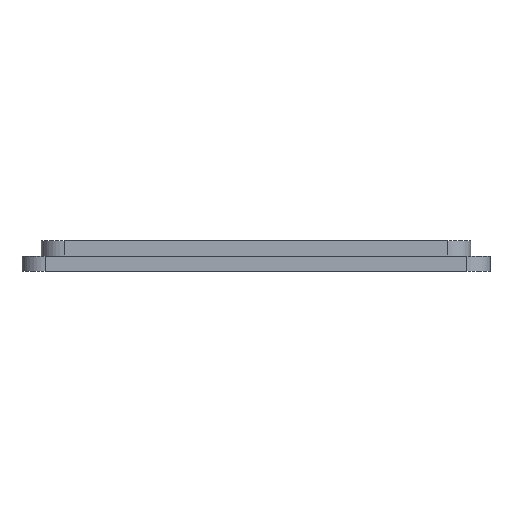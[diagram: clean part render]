
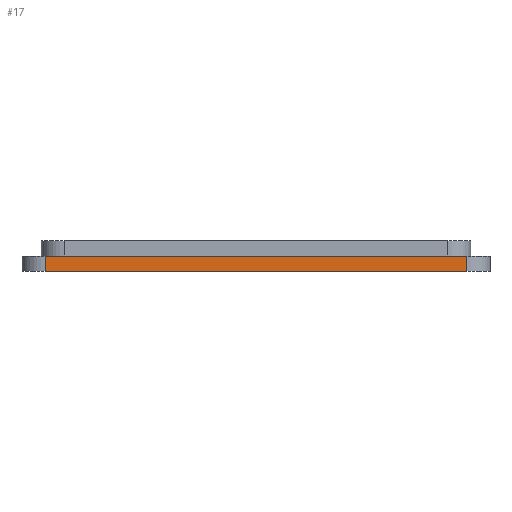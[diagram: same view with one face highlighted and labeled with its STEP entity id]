
A CAD part, left-side view. The second image highlights one B-rep face of the part: STEP entity #17.
In plain terms, the highlighted planar face has unit normal (-1, 0, 0).
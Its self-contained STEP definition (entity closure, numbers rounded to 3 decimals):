
#17 = ADVANCED_FACE('',(#18),#32,.T.);
#18 = FACE_BOUND('',#19,.T.);
#19 = EDGE_LOOP('',(#20,#55,#83,#111));
#20 = ORIENTED_EDGE('',*,*,#21,.T.);
#21 = EDGE_CURVE('',#22,#24,#26,.T.);
#22 = VERTEX_POINT('',#23);
#23 = CARTESIAN_POINT('',(-16.,-13.75,0.));
#24 = VERTEX_POINT('',#25);
#25 = CARTESIAN_POINT('',(-16.,-13.75,1.));
#26 = SURFACE_CURVE('',#27,(#31,#43),.PCURVE_S1.);
#27 = LINE('',#28,#29);
#28 = CARTESIAN_POINT('',(-16.,-13.75,0.));
#29 = VECTOR('',#30,1.);
#30 = DIRECTION('',(0.,0.,1.));
#31 = PCURVE('',#32,#37);
#32 = PLANE('',#33);
#33 = AXIS2_PLACEMENT_3D('',#34,#35,#36);
#34 = CARTESIAN_POINT('',(-16.,-13.75,0.));
#35 = DIRECTION('',(-1.,0.,0.));
#36 = DIRECTION('',(0.,1.,0.));
#37 = DEFINITIONAL_REPRESENTATION('',(#38),#42);
#38 = LINE('',#39,#40);
#39 = CARTESIAN_POINT('',(0.,0.));
#40 = VECTOR('',#41,1.);
#41 = DIRECTION('',(0.,-1.));
#42 = ( GEOMETRIC_REPRESENTATION_CONTEXT(2) 
PARAMETRIC_REPRESENTATION_CONTEXT() REPRESENTATION_CONTEXT('2D SPACE',''
  ) );
#43 = PCURVE('',#44,#49);
#44 = CYLINDRICAL_SURFACE('',#45,1.5);
#45 = AXIS2_PLACEMENT_3D('',#46,#47,#48);
#46 = CARTESIAN_POINT('',(-14.5,-13.75,0.));
#47 = DIRECTION('',(-0.,-0.,-1.));
#48 = DIRECTION('',(1.,0.,0.));
#49 = DEFINITIONAL_REPRESENTATION('',(#50),#54);
#50 = LINE('',#51,#52);
#51 = CARTESIAN_POINT('',(-3.142,0.));
#52 = VECTOR('',#53,1.);
#53 = DIRECTION('',(-0.,-1.));
#54 = ( GEOMETRIC_REPRESENTATION_CONTEXT(2) 
PARAMETRIC_REPRESENTATION_CONTEXT() REPRESENTATION_CONTEXT('2D SPACE',''
  ) );
#55 = ORIENTED_EDGE('',*,*,#56,.T.);
#56 = EDGE_CURVE('',#24,#57,#59,.T.);
#57 = VERTEX_POINT('',#58);
#58 = CARTESIAN_POINT('',(-16.,13.75,1.));
#59 = SURFACE_CURVE('',#60,(#64,#71),.PCURVE_S1.);
#60 = LINE('',#61,#62);
#61 = CARTESIAN_POINT('',(-16.,-13.75,1.));
#62 = VECTOR('',#63,1.);
#63 = DIRECTION('',(0.,1.,0.));
#64 = PCURVE('',#32,#65);
#65 = DEFINITIONAL_REPRESENTATION('',(#66),#70);
#66 = LINE('',#67,#68);
#67 = CARTESIAN_POINT('',(0.,-1.));
#68 = VECTOR('',#69,1.);
#69 = DIRECTION('',(1.,0.));
#70 = ( GEOMETRIC_REPRESENTATION_CONTEXT(2) 
PARAMETRIC_REPRESENTATION_CONTEXT() REPRESENTATION_CONTEXT('2D SPACE',''
  ) );
#71 = PCURVE('',#72,#77);
#72 = PLANE('',#73);
#73 = AXIS2_PLACEMENT_3D('',#74,#75,#76);
#74 = CARTESIAN_POINT('',(0.,0.,1.));
#75 = DIRECTION('',(-0.,-0.,-1.));
#76 = DIRECTION('',(-1.,0.,0.));
#77 = DEFINITIONAL_REPRESENTATION('',(#78),#82);
#78 = LINE('',#79,#80);
#79 = CARTESIAN_POINT('',(16.,-13.75));
#80 = VECTOR('',#81,1.);
#81 = DIRECTION('',(0.,1.));
#82 = ( GEOMETRIC_REPRESENTATION_CONTEXT(2) 
PARAMETRIC_REPRESENTATION_CONTEXT() REPRESENTATION_CONTEXT('2D SPACE',''
  ) );
#83 = ORIENTED_EDGE('',*,*,#84,.F.);
#84 = EDGE_CURVE('',#85,#57,#87,.T.);
#85 = VERTEX_POINT('',#86);
#86 = CARTESIAN_POINT('',(-16.,13.75,0.));
#87 = SURFACE_CURVE('',#88,(#92,#99),.PCURVE_S1.);
#88 = LINE('',#89,#90);
#89 = CARTESIAN_POINT('',(-16.,13.75,0.));
#90 = VECTOR('',#91,1.);
#91 = DIRECTION('',(0.,0.,1.));
#92 = PCURVE('',#32,#93);
#93 = DEFINITIONAL_REPRESENTATION('',(#94),#98);
#94 = LINE('',#95,#96);
#95 = CARTESIAN_POINT('',(27.5,0.));
#96 = VECTOR('',#97,1.);
#97 = DIRECTION('',(0.,-1.));
#98 = ( GEOMETRIC_REPRESENTATION_CONTEXT(2) 
PARAMETRIC_REPRESENTATION_CONTEXT() REPRESENTATION_CONTEXT('2D SPACE',''
  ) );
#99 = PCURVE('',#100,#105);
#100 = CYLINDRICAL_SURFACE('',#101,1.5);
#101 = AXIS2_PLACEMENT_3D('',#102,#103,#104);
#102 = CARTESIAN_POINT('',(-14.5,13.75,0.));
#103 = DIRECTION('',(-0.,-0.,-1.));
#104 = DIRECTION('',(1.,0.,0.));
#105 = DEFINITIONAL_REPRESENTATION('',(#106),#110);
#106 = LINE('',#107,#108);
#107 = CARTESIAN_POINT('',(-3.142,0.));
#108 = VECTOR('',#109,1.);
#109 = DIRECTION('',(-0.,-1.));
#110 = ( GEOMETRIC_REPRESENTATION_CONTEXT(2) 
PARAMETRIC_REPRESENTATION_CONTEXT() REPRESENTATION_CONTEXT('2D SPACE',''
  ) );
#111 = ORIENTED_EDGE('',*,*,#112,.F.);
#112 = EDGE_CURVE('',#22,#85,#113,.T.);
#113 = SURFACE_CURVE('',#114,(#118,#125),.PCURVE_S1.);
#114 = LINE('',#115,#116);
#115 = CARTESIAN_POINT('',(-16.,-13.75,0.));
#116 = VECTOR('',#117,1.);
#117 = DIRECTION('',(0.,1.,0.));
#118 = PCURVE('',#32,#119);
#119 = DEFINITIONAL_REPRESENTATION('',(#120),#124);
#120 = LINE('',#121,#122);
#121 = CARTESIAN_POINT('',(0.,0.));
#122 = VECTOR('',#123,1.);
#123 = DIRECTION('',(1.,0.));
#124 = ( GEOMETRIC_REPRESENTATION_CONTEXT(2) 
PARAMETRIC_REPRESENTATION_CONTEXT() REPRESENTATION_CONTEXT('2D SPACE',''
  ) );
#125 = PCURVE('',#126,#131);
#126 = PLANE('',#127);
#127 = AXIS2_PLACEMENT_3D('',#128,#129,#130);
#128 = CARTESIAN_POINT('',(0.,0.,0.));
#129 = DIRECTION('',(-0.,-0.,-1.));
#130 = DIRECTION('',(-1.,0.,0.));
#131 = DEFINITIONAL_REPRESENTATION('',(#132),#136);
#132 = LINE('',#133,#134);
#133 = CARTESIAN_POINT('',(16.,-13.75));
#134 = VECTOR('',#135,1.);
#135 = DIRECTION('',(0.,1.));
#136 = ( GEOMETRIC_REPRESENTATION_CONTEXT(2) 
PARAMETRIC_REPRESENTATION_CONTEXT() REPRESENTATION_CONTEXT('2D SPACE',''
  ) );
